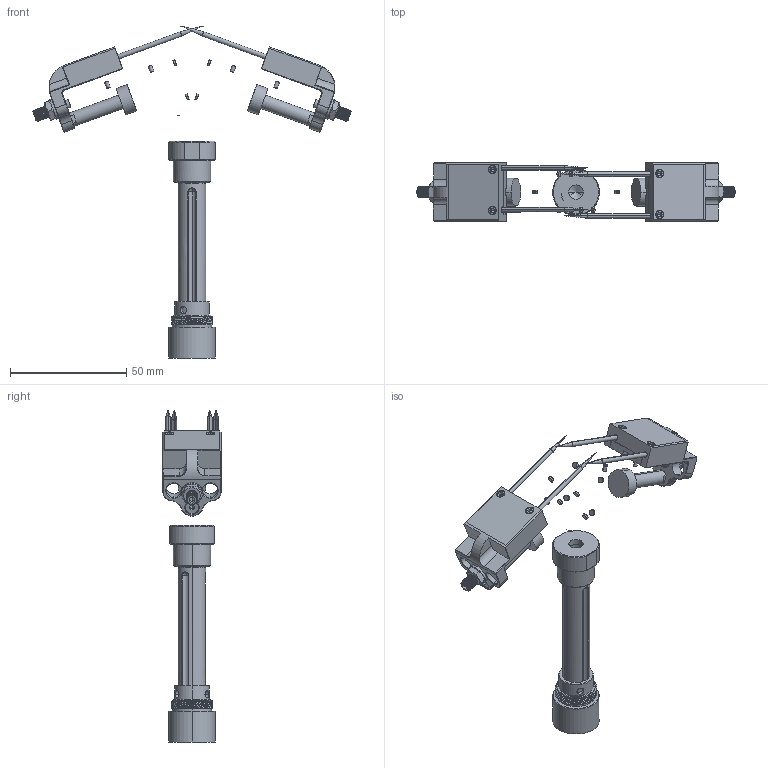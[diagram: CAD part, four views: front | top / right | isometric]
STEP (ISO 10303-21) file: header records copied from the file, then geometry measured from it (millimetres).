
FILE_DESCRIPTION(/* description */ (''),/* implementation_level */ '2;1');
FILE_NAME(/* name */ '8.Y00440-GN2010-S21.stp',/* time_stamp */ '2023-03-08T16:23:54+08:00',/* author */ (''),/* organization */ (''),/* preprocessor_version */ 'ST-DEVELOPER v16',/* originating_system */ 'SIEMENS PLM Software NX 10.0',/* authorisation */ '');
FILE_SCHEMA (('AUTOMOTIVE_DESIGN { 1 0 10303 214 3 1 1 1 }'));
Length unit declared in the file: millimetre
Products named in the file (1): _model72
Bounding box: 136.67 x 25 x 142.58 mm (x, y, z)
Volume: 32679.9 mm3; surface area: 19587.9 mm2
Topology: 16 solids, 16 shells, 965 faces, 2247 edges, 1326 vertices
Faces by surface type: plane 426, cone 253, cylinder 234, bspline 32, torus 20
Entity records: 32471 total; most frequent: CARTESIAN_POINT 10459, DIRECTION 4746, ORIENTED_EDGE 4392, EDGE_CURVE 2196, AXIS2_PLACEMENT_3D 1764, VERTEX_POINT 1326, LINE 1218, VECTOR 1218
